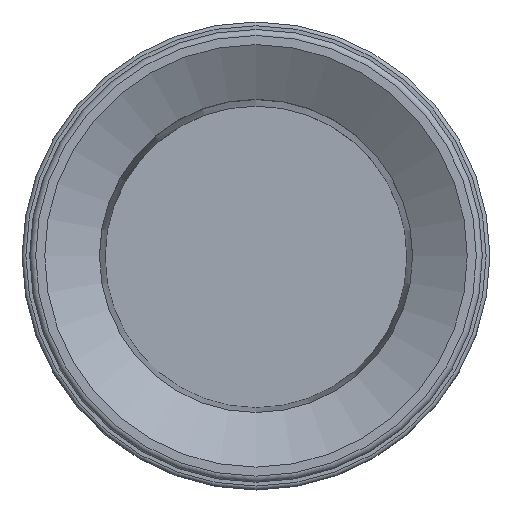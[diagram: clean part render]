
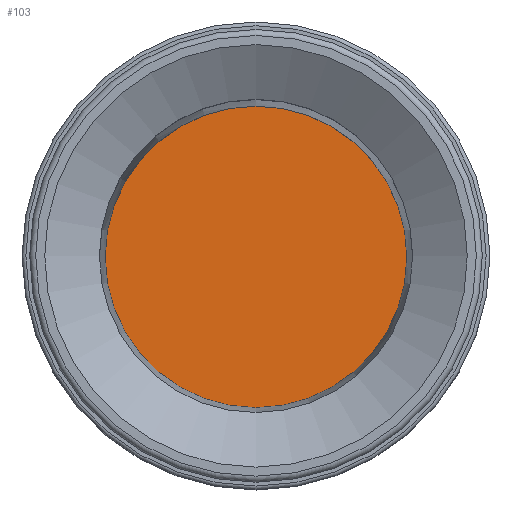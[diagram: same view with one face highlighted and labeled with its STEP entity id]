
A CAD part, top view. The second image highlights one B-rep face of the part: STEP entity #103.
In plain terms, the highlighted planar face has unit normal (0, 0, 1).
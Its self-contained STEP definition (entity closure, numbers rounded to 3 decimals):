
#103=ADVANCED_FACE('',(#198),#199,.F.);
#198=FACE_OUTER_BOUND('',#343,.T.);
#199=PLANE('',#344);
#343=EDGE_LOOP('',(#615));
#344=AXIS2_PLACEMENT_3D('',#616,#617,#618);
#615=ORIENTED_EDGE('',*,*,#826,.T.);
#616=CARTESIAN_POINT('',(-20.0,0.,-95.3));
#617=DIRECTION('',(0.0,0.,-1.0));
#618=DIRECTION('',(0.0,1.0,0.));
#826=EDGE_CURVE('',#961,#961,#962,.T.);
#961=VERTEX_POINT('',#1202);
#962=CIRCLE('',#1203,20.0);
#1202=CARTESIAN_POINT('',(0.0,-20.0,-95.3));
#1203=AXIS2_PLACEMENT_3D('',#1371,#1372,#1373);
#1371=CARTESIAN_POINT('',(0.0,0.,-95.3));
#1372=DIRECTION('',(0.0,0.,1.0));
#1373=DIRECTION('',(0.0,-1.0,0.));
